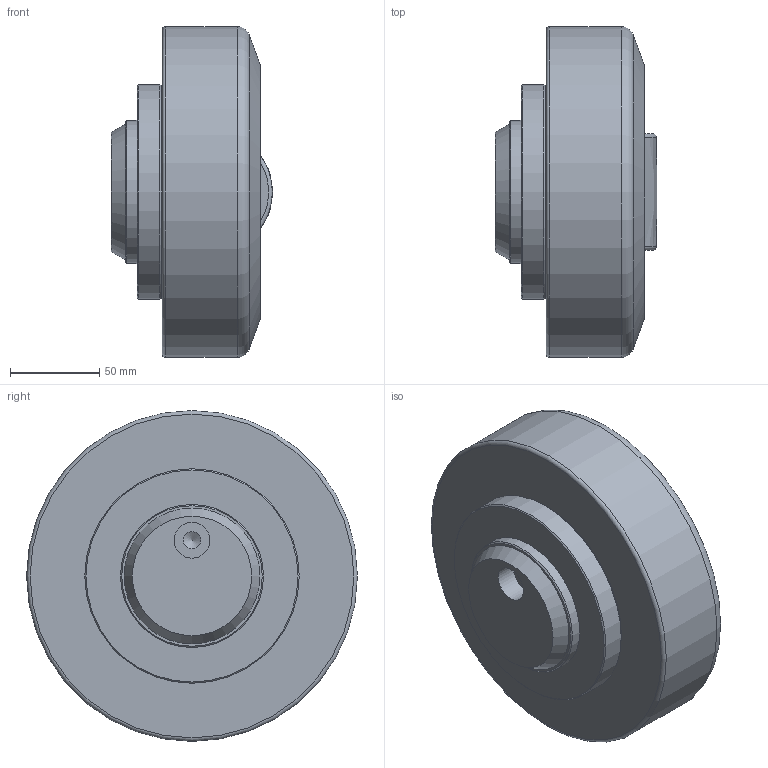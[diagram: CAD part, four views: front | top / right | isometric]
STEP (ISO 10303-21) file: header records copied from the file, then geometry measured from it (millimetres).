
FILE_DESCRIPTION(/* description */ (''),/* implementation_level */ '2;1');
FILE_NAME(/* name */ 'C:\Users\gabriele oddo\Desktop\400-0230.STEP',/* time_stamp */ '2023-07-27T12:06:54+02:00',/* author */ ('gabriele oddo'),/* organization */ (''),/* preprocessor_version */ 'ST-DEVELOPER v19',/* originating_system */ 'Autodesk Inventor 2023',/* authorisation */ '');
FILE_SCHEMA (('AUTOMOTIVE_DESIGN { 1 0 10303 214 3 1 1 }'));
Length unit declared in the file: millimetre
Products named in the file (1): 400-0230
Bounding box: 90.5 x 185 x 185 mm (x, y, z)
Volume: 1658932.1 mm3; surface area: 90454.9 mm2
Topology: 1 solids, 1 shells, 62 faces, 137 edges, 91 vertices
Faces by surface type: plane 41, cylinder 10, cone 6, torus 4, bspline 1
Full cylindrical faces by diameter (mm): 9.73 x1, 13 x4, 20 x1, 80 x1, 118 x1, 120 x1, 185 x1
Entity records: 1851 total; most frequent: CARTESIAN_POINT 344, DIRECTION 294, ORIENTED_EDGE 272, EDGE_CURVE 136, AXIS2_PLACEMENT_3D 102, VERTEX_POINT 91, LINE 90, VECTOR 90
